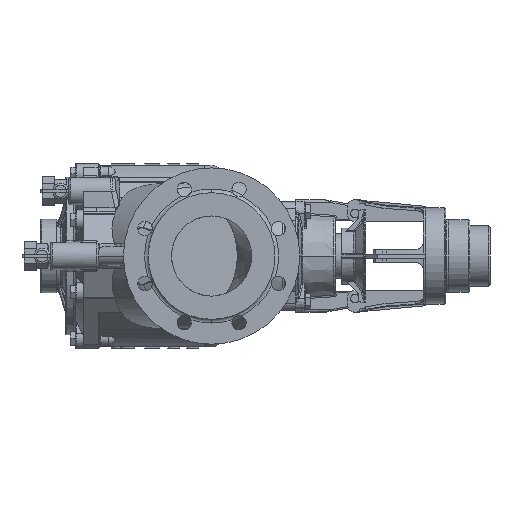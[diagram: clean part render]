
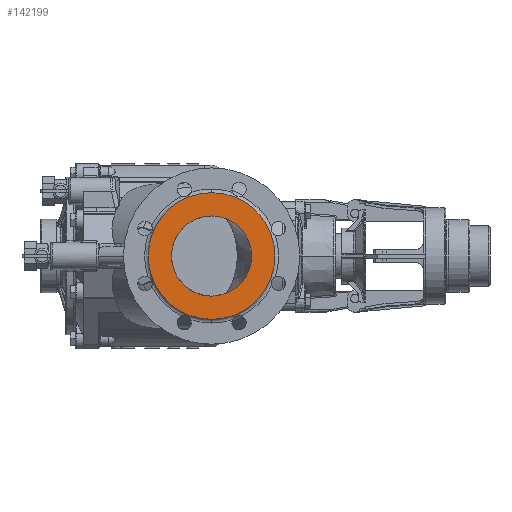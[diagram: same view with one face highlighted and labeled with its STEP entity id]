
A CAD part, left-side view. The second image highlights one B-rep face of the part: STEP entity #142199.
In plain terms, the highlighted planar face has unit normal (-1, 0, 0).
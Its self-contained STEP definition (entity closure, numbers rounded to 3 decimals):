
#19279 = CARTESIAN_POINT ( 'NONE',  ( -210., -130.396, 45.996 ) ) ;
#19287 = CARTESIAN_POINT ( 'NONE',  ( -210., -133.194, -47.091 ) ) ;
#19448 = DIRECTION ( 'NONE',  ( 0., 0., 1. ) ) ;
#19449 = DIRECTION ( 'NONE',  ( -1., 0., 0. ) ) ;
#19450 = AXIS2_PLACEMENT_3D ( 'NONE', #19463, #19449, #19448 ) ;
#19452 = CIRCLE ( 'NONE', #19450, 50. ) ;
#19463 = CARTESIAN_POINT ( 'NONE',  ( -210., -150., 0. ) ) ;
#19477 = DIRECTION ( 'NONE',  ( 0., 0., -1. ) ) ;
#19479 = DIRECTION ( 'NONE',  ( 1., 0., 0. ) ) ;
#19481 = CARTESIAN_POINT ( 'NONE',  ( -210., -100., 0. ) ) ;
#19485 = AXIS2_PLACEMENT_3D ( 'NONE', #19481, #19479, #19477 ) ;
#19487 = PLANE ( 'NONE',  #19485 ) ;
#19489 = FACE_OUTER_BOUND ( 'NONE', #142204, .T. ) ;
#19497 = FACE_BOUND ( 'NONE', #142027, .T. ) ;
#19573 = CARTESIAN_POINT ( 'NONE',  ( -210., -150., 0. ) ) ;
#19576 = DIRECTION ( 'NONE',  ( 0., 0., 1. ) ) ;
#19578 = DIRECTION ( 'NONE',  ( -1., 0., 0. ) ) ;
#19580 = CARTESIAN_POINT ( 'NONE',  ( -210., -150., 0. ) ) ;
#19581 = AXIS2_PLACEMENT_3D ( 'NONE', #19580, #19578, #19576 ) ;
#19583 = CIRCLE ( 'NONE', #19581, 50. ) ;
#19585 = CARTESIAN_POINT ( 'NONE',  ( -210., -133.194, -47.091 ) ) ;
#19586 = CARTESIAN_POINT ( 'NONE',  ( -210., -130.843, -46.252 ) ) ;
#19587 = CARTESIAN_POINT ( 'NONE',  ( -210., -128.556, -45.237 ) ) ;
#19588 = CARTESIAN_POINT ( 'NONE',  ( -210., -124.158, -42.877 ) ) ;
#19589 = CARTESIAN_POINT ( 'NONE',  ( -210., -122.047, -41.532 ) ) ;
#19590 = CARTESIAN_POINT ( 'NONE',  ( -210., -118.05, -38.542 ) ) ;
#19591 = CARTESIAN_POINT ( 'NONE',  ( -210., -116.164, -36.897 ) ) ;
#19593 = CARTESIAN_POINT ( 'NONE',  ( -210., -112.658, -33.344 ) ) ;
#19595 = CARTESIAN_POINT ( 'NONE',  ( -210., -111.038, -31.436 ) ) ;
#19598 = CARTESIAN_POINT ( 'NONE',  ( -210., -108.102, -27.4 ) ) ;
#19600 = CARTESIAN_POINT ( 'NONE',  ( -210., -106.785, -25.272 ) ) ;
#19603 = CARTESIAN_POINT ( 'NONE',  ( -210., -104.483, -20.843 ) ) ;
#19605 = CARTESIAN_POINT ( 'NONE',  ( -210., -103.498, -18.542 ) ) ;
#19607 = CARTESIAN_POINT ( 'NONE',  ( -210., -101.883, -13.819 ) ) ;
#19609 = CARTESIAN_POINT ( 'NONE',  ( -210., -101.252, -11.397 ) ) ;
#19611 = CARTESIAN_POINT ( 'NONE',  ( -210., -100.36, -6.486 ) ) ;
#19613 = CARTESIAN_POINT ( 'NONE',  ( -210., -100.098, -3.997 ) ) ;
#19615 = CARTESIAN_POINT ( 'NONE',  ( -210., -99.948, 0.992 ) ) ;
#19617 = CARTESIAN_POINT ( 'NONE',  ( -210., -100.06, 3.492 ) ) ;
#19619 = CARTESIAN_POINT ( 'NONE',  ( -210., -100.656, 8.448 ) ) ;
#19620 = CARTESIAN_POINT ( 'NONE',  ( -210., -101.14, 10.904 ) ) ;
#19622 = CARTESIAN_POINT ( 'NONE',  ( -210., -102.468, 15.715 ) ) ;
#19623 = CARTESIAN_POINT ( 'NONE',  ( -210., -103.313, 18.071 ) ) ;
#19625 = CARTESIAN_POINT ( 'NONE',  ( -210., -105.345, 22.63 ) ) ;
#19627 = CARTESIAN_POINT ( 'NONE',  ( -210., -106.531, 24.834 ) ) ;
#19629 = CARTESIAN_POINT ( 'NONE',  ( -210., -109.22, 29.039 ) ) ;
#19631 = CARTESIAN_POINT ( 'NONE',  ( -210., -110.723, 31.041 ) ) ;
#19633 = CARTESIAN_POINT ( 'NONE',  ( -210., -114.009, 34.798 ) ) ;
#19637 = CARTESIAN_POINT ( 'NONE',  ( -210., -115.793, 36.553 ) ) ;
#19639 = CARTESIAN_POINT ( 'NONE',  ( -210., -119.603, 39.778 ) ) ;
#19641 = CARTESIAN_POINT ( 'NONE',  ( -210., -121.629, 41.247 ) ) ;
#19643 = CARTESIAN_POINT ( 'NONE',  ( -210., -125.877, 43.867 ) ) ;
#19646 = CARTESIAN_POINT ( 'NONE',  ( -210., -128.1, 45.018 ) ) ;
#19647 = CARTESIAN_POINT ( 'NONE',  ( -210., -130.396, 45.996 ) ) ;
#19652 = B_SPLINE_CURVE_WITH_KNOTS ( 'NONE', 3,
 ( #19647, #19646, #19643, #19641, #19639, #19637, #19633, #19631, #19629, #19627, #19625, #19623, #19622, #19620, #19619, #19617, #19615, #19613, #19611, #19609, #19607, #19605, #19603, #19600, #19598, #19595, #19593, #19591, #19590, #19589, #19588, #19587, #19586, #19585 ),
 .UNSPECIFIED., .F., .F.,
 ( 4, 2, 2, 2, 2, 2, 2, 2, 2, 2, 2, 2, 2, 2, 2, 2, 4 ),
 ( 0., 0.062, 0.125, 0.187, 0.25, 0.312, 0.375, 0.437, 0.5, 0.562, 0.625, 0.687, 0.75, 0.812, 0.875, 0.937, 1. ),
 .UNSPECIFIED. ) ;
#19710 = DIRECTION ( 'NONE',  ( 0., 0., 1. ) ) ;
#19711 = DIRECTION ( 'NONE',  ( -1., 0., 0. ) ) ;
#19712 = AXIS2_PLACEMENT_3D ( 'NONE', #19573, #19711, #19710 ) ;
#19713 = CIRCLE ( 'NONE', #19712, 79. ) ;
#60495 = EDGE_CURVE ( 'NONE', #60541, #60544, #129556, .T. ) ;
#60541 = VERTEX_POINT ( 'NONE', #129781 ) ;
#60544 = VERTEX_POINT ( 'NONE', #129779 ) ;
#61070 = EDGE_CURVE ( 'NONE', #61124, #61102, #110134, .T. ) ;
#61102 = VERTEX_POINT ( 'NONE', #110228 ) ;
#61124 = VERTEX_POINT ( 'NONE', #110296 ) ;
#110130 = DIRECTION ( 'NONE',  ( 0., 0., 1. ) ) ;
#110131 = DIRECTION ( 'NONE',  ( -1., 0., 0. ) ) ;
#110132 = CARTESIAN_POINT ( 'NONE',  ( -210., -150., 0. ) ) ;
#110133 = AXIS2_PLACEMENT_3D ( 'NONE', #110132, #110131, #110130 ) ;
#110134 = CIRCLE ( 'NONE', #110133, 50. ) ;
#110228 = CARTESIAN_POINT ( 'NONE',  ( -210., -150., 50. ) ) ;
#110296 = CARTESIAN_POINT ( 'NONE',  ( -210., -150., -50. ) ) ;
#129548 = DIRECTION ( 'NONE',  ( 0., 0., 1. ) ) ;
#129551 = DIRECTION ( 'NONE',  ( -1., 0., 0. ) ) ;
#129553 = CARTESIAN_POINT ( 'NONE',  ( -210., -150., 0. ) ) ;
#129555 = AXIS2_PLACEMENT_3D ( 'NONE', #129553, #129551, #129548 ) ;
#129556 = CIRCLE ( 'NONE', #129555, 79. ) ;
#129779 = CARTESIAN_POINT ( 'NONE',  ( -210., -150., 79. ) ) ;
#129781 = CARTESIAN_POINT ( 'NONE',  ( -210., -150., -79. ) ) ;
#142027 = EDGE_LOOP ( 'NONE', ( #142200, #142201, #142202, #142203 ) ) ;
#142094 = VERTEX_POINT ( 'NONE', #19287 ) ;
#142102 = VERTEX_POINT ( 'NONE', #19279 ) ;
#142199 = ADVANCED_FACE ( 'NONE', ( #19497, #19489 ), #19487, .F. ) ;
#142200 = ORIENTED_EDGE ( 'NONE', *, *, #142257, .F. ) ;
#142201 = ORIENTED_EDGE ( 'NONE', *, *, #142255, .F. ) ;
#142202 = ORIENTED_EDGE ( 'NONE', *, *, #142228, .F. ) ;
#142203 = ORIENTED_EDGE ( 'NONE', *, *, #61070, .F. ) ;
#142204 = EDGE_LOOP ( 'NONE', ( #142205, #142276 ) ) ;
#142205 = ORIENTED_EDGE ( 'NONE', *, *, #142260, .T. ) ;
#142228 = EDGE_CURVE ( 'NONE', #61102, #142102, #19452, .T. ) ;
#142255 = EDGE_CURVE ( 'NONE', #142102, #142094, #19652, .T. ) ;
#142257 = EDGE_CURVE ( 'NONE', #142094, #61124, #19583, .T. ) ;
#142260 = EDGE_CURVE ( 'NONE', #60544, #60541, #19713, .T. ) ;
#142276 = ORIENTED_EDGE ( 'NONE', *, *, #60495, .T. ) ;
